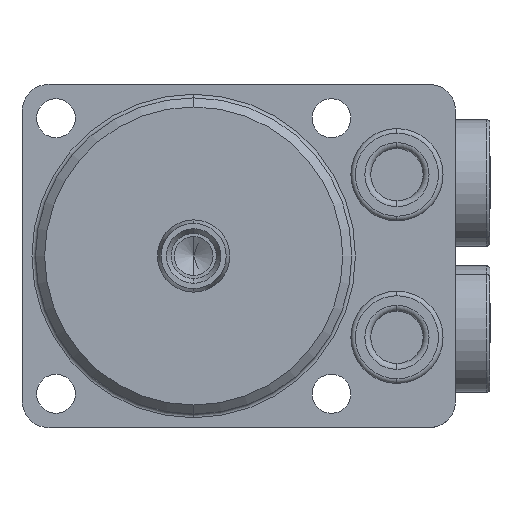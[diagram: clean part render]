
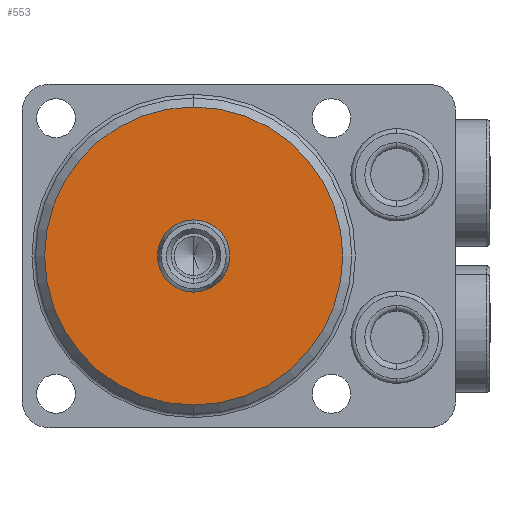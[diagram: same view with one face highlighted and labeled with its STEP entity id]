
A CAD part, front view. The second image highlights one B-rep face of the part: STEP entity #553.
In plain terms, the highlighted planar face has unit normal (0, -1, 0).
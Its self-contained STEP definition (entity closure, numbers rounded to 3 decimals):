
#237=PLANE('',#3558);
#292=FACE_BOUND('',#986,.T.);
#293=FACE_BOUND('',#987,.T.);
#553=ADVANCED_FACE('',(#292,#293),#237,.F.);
#986=EDGE_LOOP('',(#2073,#2074));
#987=EDGE_LOOP('',(#2075,#2076));
#2073=ORIENTED_EDGE('',*,*,#2965,.T.);
#2074=ORIENTED_EDGE('',*,*,#2893,.T.);
#2075=ORIENTED_EDGE('',*,*,#2966,.T.);
#2076=ORIENTED_EDGE('',*,*,#2905,.T.);
#2510=VERTEX_POINT('',#5519);
#2511=VERTEX_POINT('',#5520);
#2522=VERTEX_POINT('',#5546);
#2523=VERTEX_POINT('',#5547);
#2893=EDGE_CURVE('',#2510,#2511,#3166,.T.);
#2905=EDGE_CURVE('',#2522,#2523,#3174,.T.);
#2965=EDGE_CURVE('',#2511,#2510,#3198,.T.);
#2966=EDGE_CURVE('',#2523,#2522,#3199,.T.);
#3166=CIRCLE('',#3507,4.);
#3174=CIRCLE('',#3518,16.5);
#3198=CIRCLE('',#3556,4.);
#3199=CIRCLE('',#3557,16.5);
#3507=AXIS2_PLACEMENT_3D('',#5518,#4335,#4336);
#3518=AXIS2_PLACEMENT_3D('',#5545,#4361,#4362);
#3556=AXIS2_PLACEMENT_3D('',#5682,#4468,#4469);
#3557=AXIS2_PLACEMENT_3D('',#5683,#4470,#4471);
#3558=AXIS2_PLACEMENT_3D('',#5684,#4472,#4473);
#4335=DIRECTION('',(0.,1.,0.));
#4336=DIRECTION('',(0.,0.,1.));
#4361=DIRECTION('',(0.,-1.,0.));
#4362=DIRECTION('',(0.,0.,1.));
#4468=DIRECTION('',(0.,1.,0.));
#4469=DIRECTION('',(0.,0.,1.));
#4470=DIRECTION('',(0.,-1.,0.));
#4471=DIRECTION('',(0.,0.,1.));
#4472=DIRECTION('',(0.,1.,0.));
#4473=DIRECTION('',(0.,0.,1.));
#5518=CARTESIAN_POINT('',(0.,0.,0.));
#5519=CARTESIAN_POINT('',(0.,0.,-4.));
#5520=CARTESIAN_POINT('',(0.,0.,4.));
#5545=CARTESIAN_POINT('',(0.,0.,0.));
#5546=CARTESIAN_POINT('',(0.,0.,-16.5));
#5547=CARTESIAN_POINT('',(0.,0.,16.5));
#5682=CARTESIAN_POINT('',(0.,0.,0.));
#5683=CARTESIAN_POINT('',(0.,0.,0.));
#5684=CARTESIAN_POINT('',(-19.,0.,19.));
